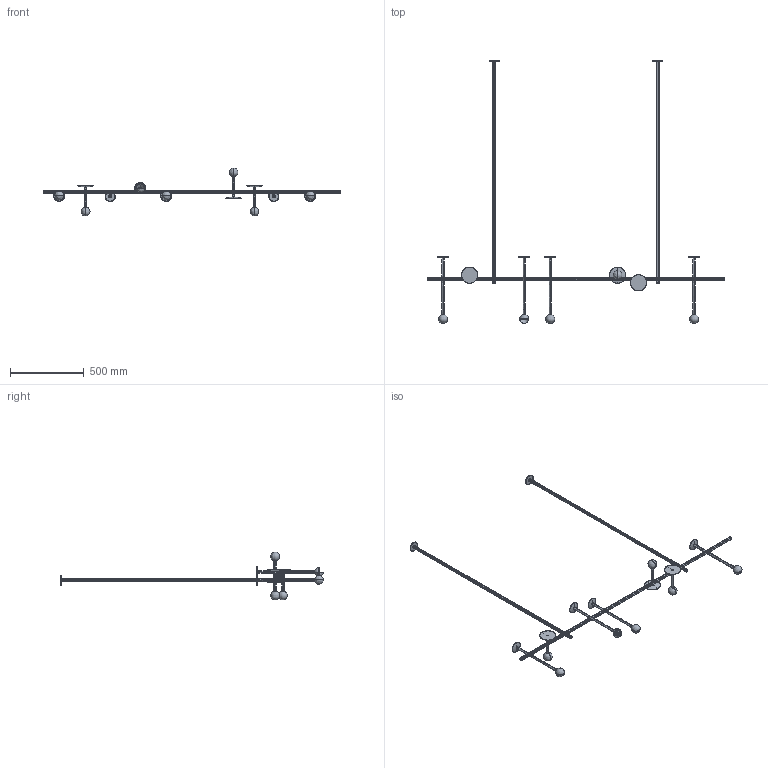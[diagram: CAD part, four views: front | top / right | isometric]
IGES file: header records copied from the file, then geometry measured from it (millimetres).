
Start section: SolidWorks IGES file using analytic representation for surfaces
Global section: file name: C:\Users\Joandita\Dropbox\Rakumba Marketing - Design\PRODUCT\TYPOGRAPHY\VELA\PRODUCT PHOTOGRAPHY\WORKING FILES\RENDERS\CAD\Lightweight\E75 Gantry\Gantry C Lightweight.IGS; native system: SolidWorks 2017; preprocessor: SolidWorks 2017; author: Joandita; date: 210916.123458; units: millimetre
Bounding box: 2010 x 1783.63 x 325.35 mm (x, y, z)
Surface area: 1278712.7 mm2 (no closed solid volume)
Topology: 0 solids, 0 shells, 902 faces, 14798 edges, 14763 vertices
Faces by surface type: revolution 526, bspline 376
